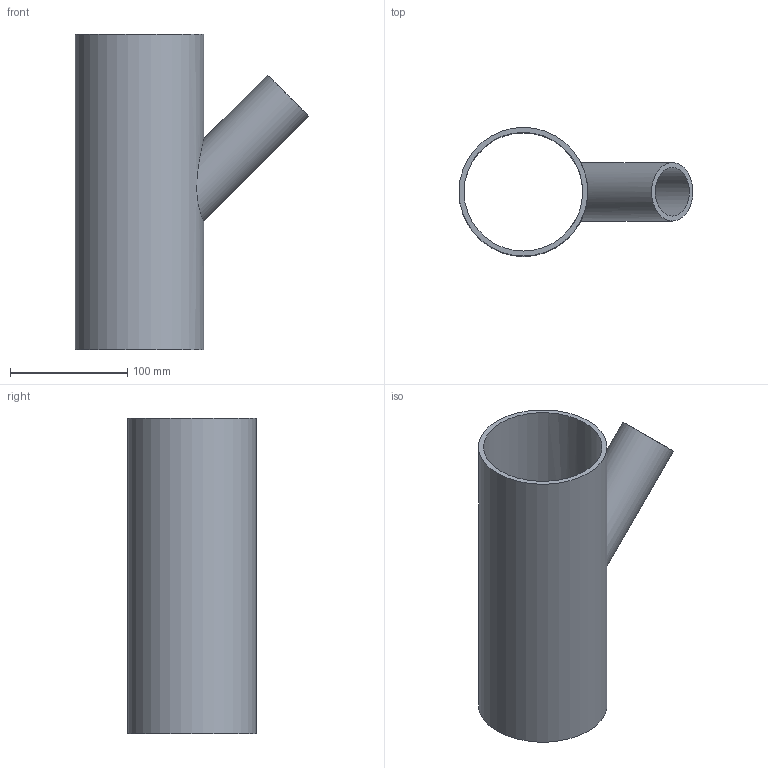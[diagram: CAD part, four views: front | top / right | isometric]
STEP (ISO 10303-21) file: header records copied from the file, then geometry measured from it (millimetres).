
FILE_DESCRIPTION(/* description */ (''),/* implementation_level */ '2;1');
FILE_NAME(/* name */ 'C:\Planerdaten\Export PLA\PRO_101557\stp\367112.stp',/* time_stamp */ '2021-09-30T15:06:18+02:00',/* author */ ('JANAN'),/* organization */ (''),/* preprocessor_version */ 'ST-DEVELOPER v16.13',/* originating_system */ 'Autodesk Inventor 2018',/* authorisation */ '');
FILE_SCHEMA (('AUTOMOTIVE_DESIGN { 1 0 10303 214 3 1 1 }'));
Length unit declared in the file: millimetre
Products named in the file (1): tmp920C.tmp
Bounding box: 199.96 x 110 x 270 mm (x, y, z)
Volume: 442445.9 mm3; surface area: 209191.4 mm2
Topology: 1 solids, 1 shells, 7 faces, 17 edges, 12 vertices
Faces by surface type: cylinder 4, plane 3
Full cylindrical faces by diameter (mm): 41.4 x1, 50 x1, 101.4 x1, 110 x1
Entity records: 314 total; most frequent: CARTESIAN_POINT 136, DIRECTION 28, EDGE_LOOP 16, ORIENTED_EDGE 16, AXIS2_PLACEMENT_3D 14, FACE_BOUND 9, VERTEX_POINT 8, EDGE_CURVE 8
